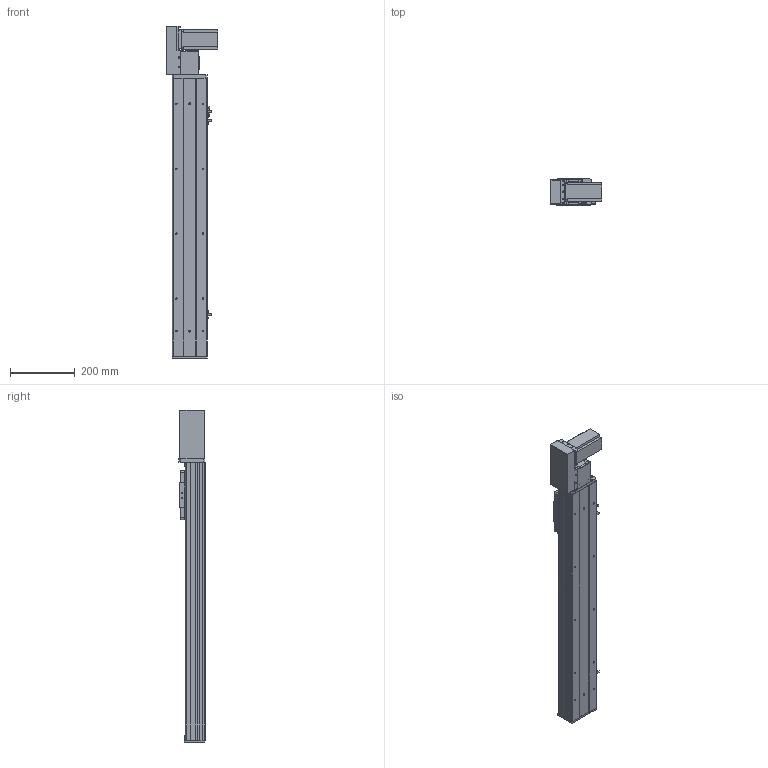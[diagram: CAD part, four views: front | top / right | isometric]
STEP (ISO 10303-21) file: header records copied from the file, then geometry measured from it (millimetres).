
FILE_DESCRIPTION (( 'STEP AP203' ), '1' );
FILE_NAME ('Y10CB-D90-S600-BL-P400W.STEP', '2020-02-15T07:44:17', ( '微软用户' ), ( '微软中国' ), 'SwSTEP 2.0', 'SolidWorks 2017', '' );
FILE_SCHEMA (( 'CONFIG_CONTROL_DESIGN' ));
Length unit declared in the file: millimetre
Products named in the file (18): Y10CB- 掛极耜裔啣-毀---; Y10C---詩湍揤啣; 0CB-雄赽釱---; 10CB9-掛极; 0Cb-俋欶---; 10CB-耜裔; Y10B-々湍喘謫眊楊擘啣--; san松下电机400不带刹车----; Y135C-陔俋离換覜結え-; Y10B--々湍喘謫眊--666; 0B-源倛裔啣; Y100-135俋离換覜ん--; Y10B-耜蚾蟀諉啣----; 0B-埴倛裔啣; Y10CB-D90-S600-BL-P400W; 0B-萇儂楊擘啣; Y俋欶BR----; 10CB-詩湍-
Assembly tree (21 placements, depth 2):
  Y10CB-D90-S600-BL-P400W
    0CB-雄赽釱---
    0Cb-俋欶---
    Y10B-々湍喘謫眊楊擘啣--
    Y10B--々湍喘謫眊--666
    Y10B-耜蚾蟀諉啣----
    0B-萇儂楊擘啣
    san松下电机400不带刹车----
    0B-源倛裔啣
    0B-埴倛裔啣
    Y俋欶BR----
    10CB-詩湍-
    Y10CB- 掛极耜裔啣-毀---  x2
    Y10C---詩湍揤啣  x2
    10CB9-掛极
    10CB-耜裔
    Y135C-陔俋离換覜結え-
    Y100-135俋离換覜ん--  x3
Bounding box: 157.5 x 80.5 x 1022.5 mm (x, y, z)
Volume: 2438730.7 mm3; surface area: 1060524 mm2
Topology: 21 solids, 21 shells, 966 faces, 2563 edges, 1682 vertices
Faces by surface type: plane 475, cylinder 467, cone 24
Entity records: 29904 total; most frequent: CARTESIAN_POINT 5173, DIRECTION 4858, ORIENTED_EDGE 4596, EDGE_CURVE 2298, AXIS2_PLACEMENT_3D 1737, VERTEX_POINT 1508, LINE 1384, VECTOR 1384
